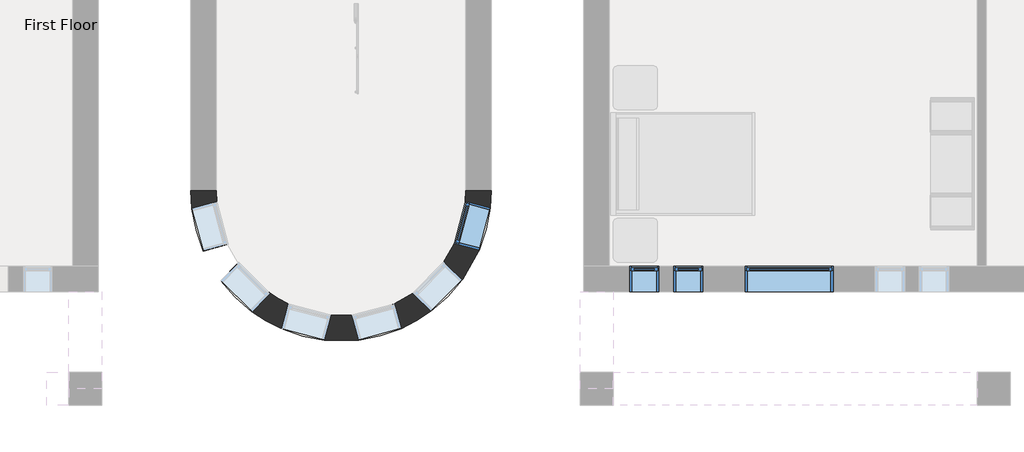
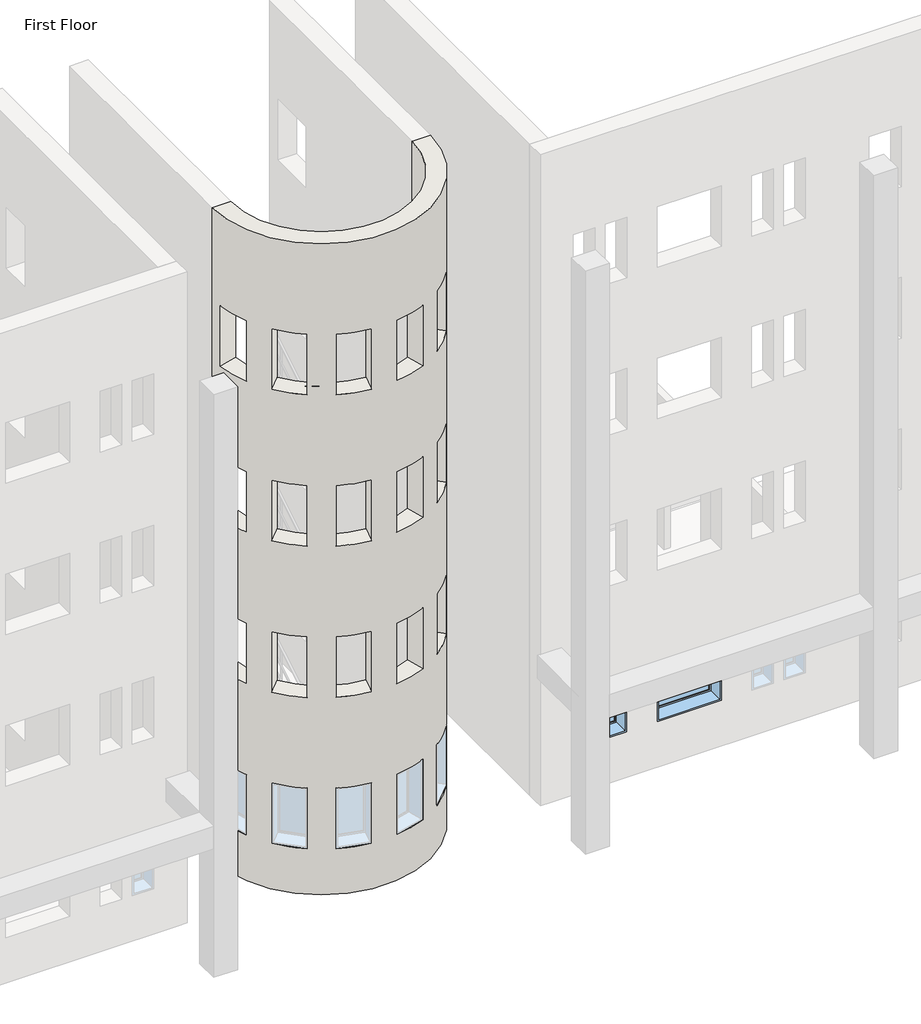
# One storey, part 2 of 24: 4 windows, 1 wall.
"""IFC4 building model written with IfcOpenShell, lengths in millimetres."""

from ifc_helpers import new_model, si_unit, frame, origin, place, context, project, spatial, polyline, circle_curve, transform, mapped, element, save
from ifc_brep_helpers import plane_surface, cylinder_surface, revolved_surface, advanced_brep
from components import window_d61ef850, window_ed80354a, window_d89bf842

model = new_model("IFC4")

# Units and contexts
model_context = context("Model", 3, world=origin())
ifc_project = project(units=[si_unit("LENGTHUNIT", "METRE", prefix="MILLI")], contexts=[model_context])

# Site, building, storey
site = spatial("IfcSite", under=ifc_project)
building = spatial("IfcBuilding", under=site)
storey = spatial("IfcBuildingStorey", under=building, Name="First Floor", Elevation=0.0)

# Wall
placement = place(None, origin())
element("IfcWall", 1, ObjectType="Exterior - Brick on Mtl. Stud", at=placement, inside=storey, context=model_context, shape_type="AdvancedBrep", body=[
    advanced_brep(
    [(-13206.3839563, -32835.3683133, 13106.4), (-16663.9589563, -32835.3683133, 13106.4), (-17016.3839563, -32835.3683133, 13106.4), (-12853.9589563, -32835.3683133, 13106.4), (-16663.9589563, -32835.3683133, 0.0), (-13206.3839563, -32835.3683133, 0.0), (-12853.9589563, -32835.3683133, 0.0), (-17016.3839563, -32835.3683133, 0.0), (-16657.3282447, -32986.637003, 914.4), (-16497.7584349, -33574.9818303, 914.4), (-16497.7584349, -33574.9818303, 2133.6), (-16657.3282447, -32986.637003, 2133.6), (-16350.9686395, -33827.4492356, 2133.6), (-16350.9686395, -33827.4492356, 914.4), (-15918.6047169, -34257.1858973, 914.4), (-15918.6047169, -34257.1858973, 2133.6), (-15665.2473224, -34402.4341862, 2133.6), (-15665.2473224, -34402.4341862, 914.4), (-15075.9408509, -34558.4150909, 914.4), (-15075.9408509, -34558.4150909, 2133.6), (-14783.9027666, -34557.5251017, 2133.6), (-14783.9027666, -34557.5251017, 914.4), (-14195.5579393, -34397.9552919, 914.4), (-14195.5579393, -34397.9552919, 2133.6), (-13943.090534, -34251.1654965, 2133.6), (-13943.090534, -34251.1654965, 914.4), (-13513.3538723, -33818.8015739, 914.4), (-13513.3538723, -33818.8015739, 2133.6), (-13368.1055834, -33565.4441794, 2133.6), (-13368.1055834, -33565.4441794, 914.4), (-13212.1246787, -32976.1377079, 914.4), (-13212.1246787, -32976.1377079, 2133.6), (-16657.3282447, -32986.637003, 11277.6), (-16657.3282447, -32986.637003, 10058.4), (-16497.7584349, -33574.9818303, 10058.4), (-16497.7584349, -33574.9818303, 11277.6), (-16350.9686395, -33827.4492356, 11277.6), (-16350.9686395, -33827.4492356, 10058.4), (-15918.6047169, -34257.1858973, 10058.4), (-15918.6047169, -34257.1858973, 11277.6), (-15665.2473224, -34402.4341862, 11277.6), (-15665.2473224, -34402.4341862, 10058.4), (-15075.9408509, -34558.4150909, 10058.4), (-15075.9408509, -34558.4150909, 11277.6), (-14783.9027666, -34557.5251017, 11277.6), (-14783.9027666, -34557.5251017, 10058.4), (-14195.5579393, -34397.9552919, 10058.4), (-14195.5579393, -34397.9552919, 11277.6), (-13943.090534, -34251.1654965, 11277.6), (-13943.090534, -34251.1654965, 10058.4), (-13513.3538723, -33818.8015739, 10058.4), (-13513.3538723, -33818.8015739, 11277.6), (-13368.1055834, -33565.4441794, 11277.6), (-13368.1055834, -33565.4441794, 10058.4), (-13212.1246787, -32976.1377079, 10058.4), (-13212.1246787, -32976.1377079, 11277.6), (-16657.3282447, -32986.637003, 5181.6), (-16657.3282447, -32986.637003, 3962.4), (-16497.7584349, -33574.9818303, 3962.4), (-16497.7584349, -33574.9818303, 5181.6), (-16350.9686395, -33827.4492356, 5181.6), (-16350.9686395, -33827.4492356, 3962.4), (-15918.6047169, -34257.1858973, 3962.4), (-15918.6047169, -34257.1858973, 5181.6), (-15665.2473224, -34402.4341862, 5181.6), (-15665.2473224, -34402.4341862, 3962.4), (-15075.9408509, -34558.4150909, 3962.4), (-15075.9408509, -34558.4150909, 5181.6), (-14783.9027666, -34557.5251017, 5181.6), (-14783.9027666, -34557.5251017, 3962.4), (-14195.5579393, -34397.9552919, 3962.4), (-14195.5579393, -34397.9552919, 5181.6), (-13943.090534, -34251.1654965, 5181.6), (-13943.090534, -34251.1654965, 3962.4), (-13513.3538723, -33818.8015739, 3962.4), (-13513.3538723, -33818.8015739, 5181.6), (-13368.1055834, -33565.4441794, 5181.6), (-13368.1055834, -33565.4441794, 3962.4), (-13212.1246787, -32976.1377079, 3962.4), (-13212.1246787, -32976.1377079, 5181.6), (-16657.3282447, -32986.637003, 8229.6), (-16657.3282447, -32986.637003, 7010.4), (-16497.7584349, -33574.9818303, 7010.4), (-16497.7584349, -33574.9818303, 8229.6), (-16350.9686395, -33827.4492356, 8229.6), (-16350.9686395, -33827.4492356, 7010.4), (-15918.6047169, -34257.1858973, 7010.4), (-15918.6047169, -34257.1858973, 8229.6), (-15665.2473224, -34402.4341862, 8229.6), (-15665.2473224, -34402.4341862, 7010.4), (-15075.9408509, -34558.4150909, 7010.4), (-15075.9408509, -34558.4150909, 8229.6), (-14783.9027666, -34557.5251017, 8229.6), (-14783.9027666, -34557.5251017, 7010.4), (-14195.5579393, -34397.9552919, 7010.4), (-14195.5579393, -34397.9552919, 8229.6), (-13943.090534, -34251.1654965, 8229.6), (-13943.090534, -34251.1654965, 7010.4), (-13513.3538723, -33818.8015739, 7010.4), (-13513.3538723, -33818.8015739, 8229.6), (-13368.1055834, -33565.4441794, 8229.6), (-13368.1055834, -33565.4441794, 7010.4), (-13212.1246787, -32976.1377079, 7010.4), (-13212.1246787, -32976.1377079, 8229.6), (-16842.3745716, -33668.4479897, 914.4), (-17001.9443814, -33080.1031624, 914.4), (-17001.9443814, -33080.1031624, 2133.6), (-16842.3745716, -33668.4479897, 2133.6), (-16602.6818887, -34080.7013723, 914.4), (-16602.6818887, -34080.7013723, 2133.6), (-16170.3179661, -34510.4380341, 2133.6), (-16170.3179661, -34510.4380341, 914.4), (-15756.6113224, -34747.6135948, 2133.6), (-15167.3048508, -34903.5944995, 2133.6), (-15167.3048508, -34903.5944995, 914.4), (-15756.6113224, -34747.6135948, 914.4), (-14690.4366072, -34902.1412384, 2133.6), (-14102.0917799, -34742.5714286, 2133.6), (-14102.0917799, -34742.5714286, 914.4), (-14690.4366072, -34902.1412384, 914.4), (-13689.8383973, -34502.8787457, 2133.6), (-13260.1017356, -34070.5148231, 2133.6), (-13260.1017356, -34070.5148231, 914.4), (-13689.8383973, -34502.8787457, 914.4), (-13022.9261748, -33656.8081794, 2133.6), (-12866.9452701, -33067.5017078, 2133.6), (-12866.9452701, -33067.5017078, 914.4), (-13022.9261748, -33656.8081794, 914.4), (-17001.9443814, -33080.1031624, 11277.6), (-16842.3745716, -33668.4479897, 11277.6), (-16842.3745716, -33668.4479897, 10058.4), (-17001.9443814, -33080.1031624, 10058.4), (-16602.6818887, -34080.7013723, 11277.6), (-16170.3179661, -34510.4380341, 11277.6), (-16170.3179661, -34510.4380341, 10058.4), (-16602.6818887, -34080.7013723, 10058.4), (-15756.6113224, -34747.6135948, 11277.6), (-15167.3048508, -34903.5944995, 11277.6), (-15167.3048508, -34903.5944995, 10058.4), (-15756.6113224, -34747.6135948, 10058.4), (-14690.4366072, -34902.1412384, 11277.6), (-14102.0917799, -34742.5714286, 11277.6), (-14102.0917799, -34742.5714286, 10058.4), (-14690.4366072, -34902.1412384, 10058.4), (-13689.8383973, -34502.8787457, 11277.6), (-13260.1017356, -34070.5148231, 11277.6), (-13260.1017356, -34070.5148231, 10058.4), (-13689.8383973, -34502.8787457, 10058.4), (-13022.9261748, -33656.8081794, 11277.6), (-12866.9452701, -33067.5017078, 11277.6), (-12866.9452701, -33067.5017078, 10058.4), (-13022.9261748, -33656.8081794, 10058.4), (-17001.9443814, -33080.1031624, 5181.6), (-16842.3745716, -33668.4479897, 5181.6), (-16842.3745716, -33668.4479897, 3962.4), (-17001.9443814, -33080.1031624, 3962.4), (-16602.6818887, -34080.7013723, 5181.6), (-16170.3179661, -34510.4380341, 5181.6), (-16170.3179661, -34510.4380341, 3962.4), (-16602.6818887, -34080.7013723, 3962.4), (-15756.6113224, -34747.6135948, 5181.6), (-15167.3048508, -34903.5944995, 5181.6), (-15167.3048508, -34903.5944995, 3962.4), (-15756.6113224, -34747.6135948, 3962.4), (-14690.4366072, -34902.1412384, 5181.6), (-14102.0917799, -34742.5714286, 5181.6), (-14102.0917799, -34742.5714286, 3962.4), (-14690.4366072, -34902.1412384, 3962.4), (-13689.8383973, -34502.8787457, 5181.6), (-13260.1017356, -34070.5148231, 5181.6), (-13260.1017356, -34070.5148231, 3962.4), (-13689.8383973, -34502.8787457, 3962.4), (-13022.9261748, -33656.8081794, 5181.6), (-12866.9452701, -33067.5017078, 5181.6), (-12866.9452701, -33067.5017078, 3962.4), (-13022.9261748, -33656.8081794, 3962.4), (-17001.9443814, -33080.1031624, 8229.6), (-16842.3745716, -33668.4479897, 8229.6), (-16842.3745716, -33668.4479897, 7010.4), (-17001.9443814, -33080.1031624, 7010.4), (-16602.6818887, -34080.7013723, 8229.6), (-16170.3179661, -34510.4380341, 8229.6), (-16170.3179661, -34510.4380341, 7010.4), (-16602.6818887, -34080.7013723, 7010.4), (-15756.6113224, -34747.6135948, 8229.6), (-15167.3048508, -34903.5944995, 8229.6), (-15167.3048508, -34903.5944995, 7010.4), (-15756.6113224, -34747.6135948, 7010.4), (-14690.4366072, -34902.1412384, 8229.6), (-14102.0917799, -34742.5714286, 8229.6), (-14102.0917799, -34742.5714286, 7010.4), (-14690.4366072, -34902.1412384, 7010.4), (-13689.8383973, -34502.8787457, 8229.6), (-13260.1017356, -34070.5148231, 8229.6), (-13260.1017356, -34070.5148231, 7010.4), (-13689.8383973, -34502.8787457, 7010.4), (-13022.9261748, -33656.8081794, 8229.6), (-12866.9452701, -33067.5017078, 8229.6), (-12866.9452701, -33067.5017078, 7010.4), (-13022.9261748, -33656.8081794, 7010.4)],
    [
        (0, 1, circle_curve(frame((-14935.1714563, -32835.3683133, 13106.4), z_axis=(0.0, 0.0, -1.0), x_axis=(1.0, 0.0, 0.0)), 1728.7875)),
        (1, 2),
        (2, 3, circle_curve(frame((-14935.1714563, -32835.3683133, 13106.4), z_axis=(0.0, 0.0, 1.0), x_axis=(1.0, 0.0, 0.0)), 2081.2125)),
        (3, 0),
        (4, 5, circle_curve(frame((-14935.1714563, -32835.3683133, 0.0), z_axis=(0.0, 0.0, 1.0), x_axis=(1.0, 0.0, 0.0)), 1728.7875)),
        (5, 6),
        (6, 7, circle_curve(frame((-14935.1714563, -32835.3683133, 0.0), z_axis=(0.0, 0.0, -1.0), x_axis=(1.0, 0.0, 0.0)), 2081.2125)),
        (7, 4),
        (0, 5),
        (4, 1),
        (8, 9, circle_curve(frame((-14935.1714563, -32835.3683133, 914.4), z_axis=(0.0, 0.0, 1.0), x_axis=(1.0, 0.0, 0.0)), 1728.7875)),
        (9, 10),
        (10, 11, circle_curve(frame((-14935.1714563, -32835.3683133, 2133.6), z_axis=(0.0, 0.0, -1.0), x_axis=(1.0, 0.0, 0.0)), 1728.7875)),
        (11, 8),
        (12, 13),
        (13, 14, circle_curve(frame((-14935.1714563, -32835.3683133, 914.4), z_axis=(0.0, 0.0, 1.0), x_axis=(1.0, 0.0, 0.0)), 1728.7875)),
        (14, 15),
        (15, 12, circle_curve(frame((-14935.1714563, -32835.3683133, 2133.6), z_axis=(0.0, 0.0, -1.0), x_axis=(1.0, 0.0, 0.0)), 1728.7875)),
        (16, 17),
        (17, 18, circle_curve(frame((-14935.1714563, -32835.3683133, 914.4), z_axis=(0.0, 0.0, 1.0), x_axis=(1.0, 0.0, 0.0)), 1728.7875)),
        (18, 19),
        (19, 16, circle_curve(frame((-14935.1714563, -32835.3683133, 2133.6), z_axis=(0.0, 0.0, -1.0), x_axis=(1.0, 0.0, 0.0)), 1728.7875)),
        (20, 21),
        (21, 22, circle_curve(frame((-14935.1714563, -32835.3683133, 914.4), z_axis=(0.0, 0.0, 1.0), x_axis=(1.0, 0.0, 0.0)), 1728.7875)),
        (22, 23),
        (23, 20, circle_curve(frame((-14935.1714563, -32835.3683133, 2133.6), z_axis=(0.0, 0.0, -1.0), x_axis=(1.0, 0.0, 0.0)), 1728.7875)),
        (24, 25),
        (25, 26, circle_curve(frame((-14935.1714563, -32835.3683133, 914.4), z_axis=(0.0, 0.0, 1.0), x_axis=(1.0, 0.0, 0.0)), 1728.7875)),
        (26, 27),
        (27, 24, circle_curve(frame((-14935.1714563, -32835.3683133, 2133.6), z_axis=(0.0, 0.0, -1.0), x_axis=(1.0, 0.0, 0.0)), 1728.7875)),
        (28, 29),
        (29, 30, circle_curve(frame((-14935.1714563, -32835.3683133, 914.4), z_axis=(0.0, 0.0, 1.0), x_axis=(1.0, 0.0, 0.0)), 1728.7875)),
        (30, 31),
        (31, 28, circle_curve(frame((-14935.1714563, -32835.3683133, 2133.6), z_axis=(0.0, 0.0, -1.0), x_axis=(1.0, 0.0, 0.0)), 1728.7875)),
        (32, 33),
        (33, 34, circle_curve(frame((-14935.1714563, -32835.3683133, 10058.4), z_axis=(0.0, 0.0, 1.0), x_axis=(1.0, 0.0, 0.0)), 1728.7875)),
        (34, 35),
        (35, 32, circle_curve(frame((-14935.1714563, -32835.3683133, 11277.6), z_axis=(0.0, 0.0, -1.0), x_axis=(1.0, 0.0, 0.0)), 1728.7875)),
        (36, 37),
        (37, 38, circle_curve(frame((-14935.1714563, -32835.3683133, 10058.4), z_axis=(0.0, 0.0, 1.0), x_axis=(1.0, 0.0, 0.0)), 1728.7875)),
        (38, 39),
        (39, 36, circle_curve(frame((-14935.1714563, -32835.3683133, 11277.6), z_axis=(0.0, 0.0, -1.0), x_axis=(1.0, 0.0, 0.0)), 1728.7875)),
        (40, 41),
        (41, 42, circle_curve(frame((-14935.1714563, -32835.3683133, 10058.4), z_axis=(0.0, 0.0, 1.0), x_axis=(1.0, 0.0, 0.0)), 1728.7875)),
        (42, 43),
        (43, 40, circle_curve(frame((-14935.1714563, -32835.3683133, 11277.6), z_axis=(0.0, 0.0, -1.0), x_axis=(1.0, 0.0, 0.0)), 1728.7875)),
        (44, 45),
        (45, 46, circle_curve(frame((-14935.1714563, -32835.3683133, 10058.4), z_axis=(0.0, 0.0, 1.0), x_axis=(1.0, 0.0, 0.0)), 1728.7875)),
        (46, 47),
        (47, 44, circle_curve(frame((-14935.1714563, -32835.3683133, 11277.6), z_axis=(0.0, 0.0, -1.0), x_axis=(1.0, 0.0, 0.0)), 1728.7875)),
        (48, 49),
        (49, 50, circle_curve(frame((-14935.1714563, -32835.3683133, 10058.4), z_axis=(0.0, 0.0, 1.0), x_axis=(1.0, 0.0, 0.0)), 1728.7875)),
        (50, 51),
        (51, 48, circle_curve(frame((-14935.1714563, -32835.3683133, 11277.6), z_axis=(0.0, 0.0, -1.0), x_axis=(1.0, 0.0, 0.0)), 1728.7875)),
        (52, 53),
        (53, 54, circle_curve(frame((-14935.1714563, -32835.3683133, 10058.4), z_axis=(0.0, 0.0, 1.0), x_axis=(1.0, 0.0, 0.0)), 1728.7875)),
        (54, 55),
        (55, 52, circle_curve(frame((-14935.1714563, -32835.3683133, 11277.6), z_axis=(0.0, 0.0, -1.0), x_axis=(1.0, 0.0, 0.0)), 1728.7875)),
        (56, 57),
        (57, 58, circle_curve(frame((-14935.1714563, -32835.3683133, 3962.4), z_axis=(0.0, 0.0, 1.0), x_axis=(1.0, 0.0, 0.0)), 1728.7875)),
        (58, 59),
        (59, 56, circle_curve(frame((-14935.1714563, -32835.3683133, 5181.6), z_axis=(0.0, 0.0, -1.0), x_axis=(1.0, 0.0, 0.0)), 1728.7875)),
        (60, 61),
        (61, 62, circle_curve(frame((-14935.1714563, -32835.3683133, 3962.4), z_axis=(0.0, 0.0, 1.0), x_axis=(1.0, 0.0, 0.0)), 1728.7875)),
        (62, 63),
        (63, 60, circle_curve(frame((-14935.1714563, -32835.3683133, 5181.6), z_axis=(0.0, 0.0, -1.0), x_axis=(1.0, 0.0, 0.0)), 1728.7875)),
        (64, 65),
        (65, 66, circle_curve(frame((-14935.1714563, -32835.3683133, 3962.4), z_axis=(0.0, 0.0, 1.0), x_axis=(1.0, 0.0, 0.0)), 1728.7875)),
        (66, 67),
        (67, 64, circle_curve(frame((-14935.1714563, -32835.3683133, 5181.6), z_axis=(0.0, 0.0, -1.0), x_axis=(1.0, 0.0, 0.0)), 1728.7875)),
        (68, 69),
        (69, 70, circle_curve(frame((-14935.1714563, -32835.3683133, 3962.4), z_axis=(0.0, 0.0, 1.0), x_axis=(1.0, 0.0, 0.0)), 1728.7875)),
        (70, 71),
        (71, 68, circle_curve(frame((-14935.1714563, -32835.3683133, 5181.6), z_axis=(0.0, 0.0, -1.0), x_axis=(1.0, 0.0, 0.0)), 1728.7875)),
        (72, 73),
        (73, 74, circle_curve(frame((-14935.1714563, -32835.3683133, 3962.4), z_axis=(0.0, 0.0, 1.0), x_axis=(1.0, 0.0, 0.0)), 1728.7875)),
        (74, 75),
        (75, 72, circle_curve(frame((-14935.1714563, -32835.3683133, 5181.6), z_axis=(0.0, 0.0, -1.0), x_axis=(1.0, 0.0, 0.0)), 1728.7875)),
        (76, 77),
        (77, 78, circle_curve(frame((-14935.1714563, -32835.3683133, 3962.4), z_axis=(0.0, 0.0, 1.0), x_axis=(1.0, 0.0, 0.0)), 1728.7875)),
        (78, 79),
        (79, 76, circle_curve(frame((-14935.1714563, -32835.3683133, 5181.6), z_axis=(0.0, 0.0, -1.0), x_axis=(1.0, 0.0, 0.0)), 1728.7875)),
        (80, 81),
        (81, 82, circle_curve(frame((-14935.1714563, -32835.3683133, 7010.4), z_axis=(0.0, 0.0, 1.0), x_axis=(1.0, 0.0, 0.0)), 1728.7875)),
        (82, 83),
        (83, 80, circle_curve(frame((-14935.1714563, -32835.3683133, 8229.6), z_axis=(0.0, 0.0, -1.0), x_axis=(1.0, 0.0, 0.0)), 1728.7875)),
        (84, 85),
        (85, 86, circle_curve(frame((-14935.1714563, -32835.3683133, 7010.4), z_axis=(0.0, 0.0, 1.0), x_axis=(1.0, 0.0, 0.0)), 1728.7875)),
        (86, 87),
        (87, 84, circle_curve(frame((-14935.1714563, -32835.3683133, 8229.6), z_axis=(0.0, 0.0, -1.0), x_axis=(1.0, 0.0, 0.0)), 1728.7875)),
        (88, 89),
        (89, 90, circle_curve(frame((-14935.1714563, -32835.3683133, 7010.4), z_axis=(0.0, 0.0, 1.0), x_axis=(1.0, 0.0, 0.0)), 1728.7875)),
        (90, 91),
        (91, 88, circle_curve(frame((-14935.1714563, -32835.3683133, 8229.6), z_axis=(0.0, 0.0, -1.0), x_axis=(1.0, 0.0, 0.0)), 1728.7875)),
        (92, 93),
        (93, 94, circle_curve(frame((-14935.1714563, -32835.3683133, 7010.4), z_axis=(0.0, 0.0, 1.0), x_axis=(1.0, 0.0, 0.0)), 1728.7875)),
        (94, 95),
        (95, 92, circle_curve(frame((-14935.1714563, -32835.3683133, 8229.6), z_axis=(0.0, 0.0, -1.0), x_axis=(1.0, 0.0, 0.0)), 1728.7875)),
        (96, 97),
        (97, 98, circle_curve(frame((-14935.1714563, -32835.3683133, 7010.4), z_axis=(0.0, 0.0, 1.0), x_axis=(1.0, 0.0, 0.0)), 1728.7875)),
        (98, 99),
        (99, 96, circle_curve(frame((-14935.1714563, -32835.3683133, 8229.6), z_axis=(0.0, 0.0, -1.0), x_axis=(1.0, 0.0, 0.0)), 1728.7875)),
        (100, 101),
        (101, 102, circle_curve(frame((-14935.1714563, -32835.3683133, 7010.4), z_axis=(0.0, 0.0, 1.0), x_axis=(1.0, 0.0, 0.0)), 1728.7875)),
        (102, 103),
        (103, 100, circle_curve(frame((-14935.1714563, -32835.3683133, 8229.6), z_axis=(0.0, 0.0, -1.0), x_axis=(1.0, 0.0, 0.0)), 1728.7875)),
        (7, 2),
        (6, 3),
        (104, 105, circle_curve(frame((-14935.1714563, -32835.3683133, 914.4), z_axis=(0.0, 0.0, -1.0), x_axis=(1.0, 0.0, 0.0)), 2081.2125)),
        (105, 106),
        (106, 107, circle_curve(frame((-14935.1714563, -32835.3683133, 2133.6), z_axis=(0.0, 0.0, 1.0), x_axis=(1.0, 0.0, 0.0)), 2081.2125)),
        (107, 104),
        (108, 109),
        (109, 110, circle_curve(frame((-14935.1714563, -32835.3683133, 2133.6), z_axis=(0.0, 0.0, 1.0), x_axis=(1.0, 0.0, 0.0)), 2081.2125)),
        (110, 111),
        (111, 108, circle_curve(frame((-14935.1714563, -32835.3683133, 914.4), z_axis=(0.0, 0.0, -1.0), x_axis=(1.0, 0.0, 0.0)), 2081.2125)),
        (112, 113, circle_curve(frame((-14935.1714563, -32835.3683133, 2133.6), z_axis=(0.0, 0.0, 1.0), x_axis=(1.0, 0.0, 0.0)), 2081.2125)),
        (113, 114),
        (114, 115, circle_curve(frame((-14935.1714563, -32835.3683133, 914.4), z_axis=(0.0, 0.0, -1.0), x_axis=(1.0, 0.0, 0.0)), 2081.2125)),
        (115, 112),
        (116, 117, circle_curve(frame((-14935.1714563, -32835.3683133, 2133.6), z_axis=(0.0, 0.0, 1.0), x_axis=(1.0, 0.0, 0.0)), 2081.2125)),
        (117, 118),
        (118, 119, circle_curve(frame((-14935.1714563, -32835.3683133, 914.4), z_axis=(0.0, 0.0, -1.0), x_axis=(1.0, 0.0, 0.0)), 2081.2125)),
        (119, 116),
        (120, 121, circle_curve(frame((-14935.1714563, -32835.3683133, 2133.6), z_axis=(0.0, 0.0, 1.0), x_axis=(1.0, 0.0, 0.0)), 2081.2125)),
        (121, 122),
        (122, 123, circle_curve(frame((-14935.1714563, -32835.3683133, 914.4), z_axis=(0.0, 0.0, -1.0), x_axis=(1.0, 0.0, 0.0)), 2081.2125)),
        (123, 120),
        (124, 125, circle_curve(frame((-14935.1714563, -32835.3683133, 2133.6), z_axis=(0.0, 0.0, 1.0), x_axis=(1.0, 0.0, 0.0)), 2081.2125)),
        (125, 126),
        (126, 127, circle_curve(frame((-14935.1714563, -32835.3683133, 914.4), z_axis=(0.0, 0.0, -1.0), x_axis=(1.0, 0.0, 0.0)), 2081.2125)),
        (127, 124),
        (128, 129, circle_curve(frame((-14935.1714563, -32835.3683133, 11277.6), z_axis=(0.0, 0.0, 1.0), x_axis=(1.0, 0.0, 0.0)), 2081.2125)),
        (129, 130),
        (130, 131, circle_curve(frame((-14935.1714563, -32835.3683133, 10058.4), z_axis=(0.0, 0.0, -1.0), x_axis=(1.0, 0.0, 0.0)), 2081.2125)),
        (131, 128),
        (132, 133, circle_curve(frame((-14935.1714563, -32835.3683133, 11277.6), z_axis=(0.0, 0.0, 1.0), x_axis=(1.0, 0.0, 0.0)), 2081.2125)),
        (133, 134),
        (134, 135, circle_curve(frame((-14935.1714563, -32835.3683133, 10058.4), z_axis=(0.0, 0.0, -1.0), x_axis=(1.0, 0.0, 0.0)), 2081.2125)),
        (135, 132),
        (136, 137, circle_curve(frame((-14935.1714563, -32835.3683133, 11277.6), z_axis=(0.0, 0.0, 1.0), x_axis=(1.0, 0.0, 0.0)), 2081.2125)),
        (137, 138),
        (138, 139, circle_curve(frame((-14935.1714563, -32835.3683133, 10058.4), z_axis=(0.0, 0.0, -1.0), x_axis=(1.0, 0.0, 0.0)), 2081.2125)),
        (139, 136),
        (140, 141, circle_curve(frame((-14935.1714563, -32835.3683133, 11277.6), z_axis=(0.0, 0.0, 1.0), x_axis=(1.0, 0.0, 0.0)), 2081.2125)),
        (141, 142),
        (142, 143, circle_curve(frame((-14935.1714563, -32835.3683133, 10058.4), z_axis=(0.0, 0.0, -1.0), x_axis=(1.0, 0.0, 0.0)), 2081.2125)),
        (143, 140),
        (144, 145, circle_curve(frame((-14935.1714563, -32835.3683133, 11277.6), z_axis=(0.0, 0.0, 1.0), x_axis=(1.0, 0.0, 0.0)), 2081.2125)),
        (145, 146),
        (146, 147, circle_curve(frame((-14935.1714563, -32835.3683133, 10058.4), z_axis=(0.0, 0.0, -1.0), x_axis=(1.0, 0.0, 0.0)), 2081.2125)),
        (147, 144),
        (148, 149, circle_curve(frame((-14935.1714563, -32835.3683133, 11277.6), z_axis=(0.0, 0.0, 1.0), x_axis=(1.0, 0.0, 0.0)), 2081.2125)),
        (149, 150),
        (150, 151, circle_curve(frame((-14935.1714563, -32835.3683133, 10058.4), z_axis=(0.0, 0.0, -1.0), x_axis=(1.0, 0.0, 0.0)), 2081.2125)),
        (151, 148),
        (152, 153, circle_curve(frame((-14935.1714563, -32835.3683133, 5181.6), z_axis=(0.0, 0.0, 1.0), x_axis=(1.0, 0.0, 0.0)), 2081.2125)),
        (153, 154),
        (154, 155, circle_curve(frame((-14935.1714563, -32835.3683133, 3962.4), z_axis=(0.0, 0.0, -1.0), x_axis=(1.0, 0.0, 0.0)), 2081.2125)),
        (155, 152),
        (156, 157, circle_curve(frame((-14935.1714563, -32835.3683133, 5181.6), z_axis=(0.0, 0.0, 1.0), x_axis=(1.0, 0.0, 0.0)), 2081.2125)),
        (157, 158),
        (158, 159, circle_curve(frame((-14935.1714563, -32835.3683133, 3962.4), z_axis=(0.0, 0.0, -1.0), x_axis=(1.0, 0.0, 0.0)), 2081.2125)),
        (159, 156),
        (160, 161, circle_curve(frame((-14935.1714563, -32835.3683133, 5181.6), z_axis=(0.0, 0.0, 1.0), x_axis=(1.0, 0.0, 0.0)), 2081.2125)),
        (161, 162),
        (162, 163, circle_curve(frame((-14935.1714563, -32835.3683133, 3962.4), z_axis=(0.0, 0.0, -1.0), x_axis=(1.0, 0.0, 0.0)), 2081.2125)),
        (163, 160),
        (164, 165, circle_curve(frame((-14935.1714563, -32835.3683133, 5181.6), z_axis=(0.0, 0.0, 1.0), x_axis=(1.0, 0.0, 0.0)), 2081.2125)),
        (165, 166),
        (166, 167, circle_curve(frame((-14935.1714563, -32835.3683133, 3962.4), z_axis=(0.0, 0.0, -1.0), x_axis=(1.0, 0.0, 0.0)), 2081.2125)),
        (167, 164),
        (168, 169, circle_curve(frame((-14935.1714563, -32835.3683133, 5181.6), z_axis=(0.0, 0.0, 1.0), x_axis=(1.0, 0.0, 0.0)), 2081.2125)),
        (169, 170),
        (170, 171, circle_curve(frame((-14935.1714563, -32835.3683133, 3962.4), z_axis=(0.0, 0.0, -1.0), x_axis=(1.0, 0.0, 0.0)), 2081.2125)),
        (171, 168),
        (172, 173, circle_curve(frame((-14935.1714563, -32835.3683133, 5181.6), z_axis=(0.0, 0.0, 1.0), x_axis=(1.0, 0.0, 0.0)), 2081.2125)),
        (173, 174),
        (174, 175, circle_curve(frame((-14935.1714563, -32835.3683133, 3962.4), z_axis=(0.0, 0.0, -1.0), x_axis=(1.0, 0.0, 0.0)), 2081.2125)),
        (175, 172),
        (176, 177, circle_curve(frame((-14935.1714563, -32835.3683133, 8229.6), z_axis=(0.0, 0.0, 1.0), x_axis=(1.0, 0.0, 0.0)), 2081.2125)),
        (177, 178),
        (178, 179, circle_curve(frame((-14935.1714563, -32835.3683133, 7010.4), z_axis=(0.0, 0.0, -1.0), x_axis=(1.0, 0.0, 0.0)), 2081.2125)),
        (179, 176),
        (180, 181, circle_curve(frame((-14935.1714563, -32835.3683133, 8229.6), z_axis=(0.0, 0.0, 1.0), x_axis=(1.0, 0.0, 0.0)), 2081.2125)),
        (181, 182),
        (182, 183, circle_curve(frame((-14935.1714563, -32835.3683133, 7010.4), z_axis=(0.0, 0.0, -1.0), x_axis=(1.0, 0.0, 0.0)), 2081.2125)),
        (183, 180),
        (184, 185, circle_curve(frame((-14935.1714563, -32835.3683133, 8229.6), z_axis=(0.0, 0.0, 1.0), x_axis=(1.0, 0.0, 0.0)), 2081.2125)),
        (185, 186),
        (186, 187, circle_curve(frame((-14935.1714563, -32835.3683133, 7010.4), z_axis=(0.0, 0.0, -1.0), x_axis=(1.0, 0.0, 0.0)), 2081.2125)),
        (187, 184),
        (188, 189, circle_curve(frame((-14935.1714563, -32835.3683133, 8229.6), z_axis=(0.0, 0.0, 1.0), x_axis=(1.0, 0.0, 0.0)), 2081.2125)),
        (189, 190),
        (190, 191, circle_curve(frame((-14935.1714563, -32835.3683133, 7010.4), z_axis=(0.0, 0.0, -1.0), x_axis=(1.0, 0.0, 0.0)), 2081.2125)),
        (191, 188),
        (192, 193, circle_curve(frame((-14935.1714563, -32835.3683133, 8229.6), z_axis=(0.0, 0.0, 1.0), x_axis=(1.0, 0.0, 0.0)), 2081.2125)),
        (193, 194),
        (194, 195, circle_curve(frame((-14935.1714563, -32835.3683133, 7010.4), z_axis=(0.0, 0.0, -1.0), x_axis=(1.0, 0.0, 0.0)), 2081.2125)),
        (195, 192),
        (196, 197, circle_curve(frame((-14935.1714563, -32835.3683133, 8229.6), z_axis=(0.0, 0.0, 1.0), x_axis=(1.0, 0.0, 0.0)), 2081.2125)),
        (197, 198),
        (198, 199, circle_curve(frame((-14935.1714563, -32835.3683133, 7010.4), z_axis=(0.0, 0.0, -1.0), x_axis=(1.0, 0.0, 0.0)), 2081.2125)),
        (199, 196),
        (105, 8),
        (11, 106),
        (104, 9),
        (107, 10),
        (12, 109),
        (108, 13),
        (111, 14),
        (110, 15),
        (16, 112),
        (115, 17),
        (114, 18),
        (113, 19),
        (20, 116),
        (119, 21),
        (118, 22),
        (117, 23),
        (24, 120),
        (123, 25),
        (122, 26),
        (121, 27),
        (28, 124),
        (127, 29),
        (126, 30),
        (125, 31),
        (32, 128),
        (131, 33),
        (130, 34),
        (129, 35),
        (36, 132),
        (135, 37),
        (134, 38),
        (133, 39),
        (40, 136),
        (139, 41),
        (138, 42),
        (137, 43),
        (44, 140),
        (143, 45),
        (142, 46),
        (141, 47),
        (48, 144),
        (147, 49),
        (146, 50),
        (145, 51),
        (52, 148),
        (151, 53),
        (150, 54),
        (149, 55),
        (56, 152),
        (155, 57),
        (154, 58),
        (153, 59),
        (60, 156),
        (159, 61),
        (158, 62),
        (157, 63),
        (64, 160),
        (163, 65),
        (162, 66),
        (161, 67),
        (68, 164),
        (167, 69),
        (166, 70),
        (165, 71),
        (72, 168),
        (171, 73),
        (170, 74),
        (169, 75),
        (76, 172),
        (175, 77),
        (174, 78),
        (173, 79),
        (80, 176),
        (179, 81),
        (178, 82),
        (177, 83),
        (84, 180),
        (183, 85),
        (182, 86),
        (181, 87),
        (88, 184),
        (187, 89),
        (186, 90),
        (185, 91),
        (92, 188),
        (191, 93),
        (190, 94),
        (189, 95),
        (96, 192),
        (195, 97),
        (194, 98),
        (193, 99),
        (100, 196),
        (199, 101),
        (198, 102),
        (197, 103),
    ],
    [
        plane_surface(frame((-13206.3839563, -32835.3683133, 13106.4), z_axis=(0.0, 0.0, 1.0), x_axis=(0.0, -1.0, 0.0))),
        plane_surface(frame((-13206.3839563, -32835.3683133, 0.0), z_axis=(0.0, 0.0, -1.0), x_axis=(0.0, 1.0, 0.0))),
        revolved_surface(polyline([(-13206.3839563, -32835.3683133, 0.0), (-13206.3839563, -32835.3683133, 13106.4)]), (-14935.1714563, -32835.3683133, 0.0), (0.0, 0.0, -1.0)),
        plane_surface(frame((-16663.9589563, -32835.3683133, 13106.4), z_axis=(0.0, 1.0, 0.0), x_axis=(0.0, 0.0, -1.0))),
        cylinder_surface(frame((-14935.1714563, -32835.3683133, 0.0), z_axis=(0.0, 0.0, 1.0), x_axis=(1.0, 0.0, 0.0)), 2081.2125),
        plane_surface(frame((-12853.9589563, -32835.3683133, 13106.4), z_axis=(0.0, 1.0, 0.0), x_axis=(0.0, 0.0, -1.0))),
        plane_surface(frame((-18468.3271662, -33477.8128238, 2133.6), z_axis=(0.26176149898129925, -0.9651325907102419, 0.0), x_axis=(0.9651325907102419, 0.26176149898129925, 0.0))),
        plane_surface(frame((-18468.3271662, -33477.8128238, 914.4), z_axis=(0.0, 0.0, 1.0), x_axis=(0.9651325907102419, 0.26176149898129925, 0.0))),
        plane_surface(frame((-18308.7573564, -34066.1576511, 914.4), z_axis=(-0.26176149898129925, 0.9651325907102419, 0.0), x_axis=(0.9651325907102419, 0.26176149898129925, 0.0))),
        plane_surface(frame((-18308.7573564, -34066.1576511, 2133.6), z_axis=(0.0, 0.0, -1.0), x_axis=(0.9651325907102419, 0.26176149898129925, 0.0))),
        plane_surface(frame((-17673.7518014, -35158.3194348, 2133.6), z_axis=(0.7092584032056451, -0.7049485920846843, 0.0), x_axis=(0.7049485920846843, 0.7092584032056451, 0.0))),
        plane_surface(frame((-17673.7518014, -35158.3194348, 914.4), z_axis=(0.0, 0.0, 1.0), x_axis=(0.7049485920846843, 0.7092584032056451, 0.0))),
        plane_surface(frame((-17241.3878788, -35588.0560966, 914.4), z_axis=(-0.7092584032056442, 0.7049485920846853, 0.0), x_axis=(0.7049485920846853, 0.7092584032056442, 0.0))),
        plane_surface(frame((-17241.3878788, -35588.0560966, 2133.6), z_axis=(0.0, 0.0, -1.0), x_axis=(0.7049485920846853, 0.7092584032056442, 0.0))),
        plane_surface(frame((-15665.2473224, -34402.4341862, 2133.6), z_axis=(0.9667100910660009, -0.25587418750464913, 0.0), x_axis=(-0.25587418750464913, -0.9667100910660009, 0.0))),
        plane_surface(frame((-15665.2473224, -34402.4341862, 914.4), z_axis=(0.0, 0.0, 1.0), x_axis=(-0.25587418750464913, -0.9667100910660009, 0.0))),
        plane_surface(frame((-15075.9408509, -34558.4150909, 914.4), z_axis=(-0.9667100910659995, 0.25587418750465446, 0.0), x_axis=(-0.25587418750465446, -0.9667100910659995, 0.0))),
        plane_surface(frame((-15075.9408509, -34558.4150909, 2133.6), z_axis=(0.0, 0.0, -1.0), x_axis=(-0.25587418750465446, -0.9667100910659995, 0.0))),
        plane_surface(frame((-14783.9027666, -34557.5251017, 2133.6), z_axis=(0.9651325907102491, 0.2617614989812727, 0.0), x_axis=(0.2617614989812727, -0.9651325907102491, 0.0))),
        plane_surface(frame((-14783.9027666, -34557.5251017, 914.4), z_axis=(0.0, 0.0, 1.0000000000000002), x_axis=(0.2617614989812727, -0.9651325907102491, 0.0))),
        plane_surface(frame((-14195.5579393, -34397.9552919, 914.4), z_axis=(-0.9651325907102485, -0.26176149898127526, 0.0), x_axis=(0.26176149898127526, -0.9651325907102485, 0.0))),
        plane_surface(frame((-14195.5579393, -34397.9552919, 2133.6), z_axis=(0.0, 0.0, -1.0000000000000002), x_axis=(0.26176149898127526, -0.9651325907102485, 0.0))),
        plane_surface(frame((-13943.090534, -34251.1654965, 2133.6), z_axis=(0.7049485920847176, 0.709258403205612, 0.0), x_axis=(0.709258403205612, -0.7049485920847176, 0.0))),
        plane_surface(frame((-13943.090534, -34251.1654965, 914.4), z_axis=(0.0, 0.0, 1.0), x_axis=(0.709258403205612, -0.7049485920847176, 0.0))),
        plane_surface(frame((-13513.3538723, -33818.8015739, 914.4), z_axis=(-0.7049485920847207, -0.7092584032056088, 0.0), x_axis=(0.7092584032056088, -0.7049485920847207, 0.0))),
        plane_surface(frame((-13513.3538723, -33818.8015739, 2133.6), z_axis=(0.0, 0.0, -1.0), x_axis=(0.7092584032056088, -0.7049485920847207, 0.0))),
        plane_surface(frame((-13368.1055834, -33565.4441794, 2133.6), z_axis=(0.2558741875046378, 0.9667100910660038, 0.0), x_axis=(0.9667100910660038, -0.2558741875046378, 0.0))),
        plane_surface(frame((-13368.1055834, -33565.4441794, 914.4), z_axis=(0.0, 0.0, 1.0), x_axis=(0.9667100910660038, -0.2558741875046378, 0.0))),
        plane_surface(frame((-13212.1246787, -32976.1377079, 914.4), z_axis=(-0.2558741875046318, -0.9667100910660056, 0.0), x_axis=(0.9667100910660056, -0.2558741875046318, 0.0))),
        plane_surface(frame((-13212.1246787, -32976.1377079, 2133.6), z_axis=(0.0, 0.0, -1.0000000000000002), x_axis=(0.9667100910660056, -0.2558741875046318, 0.0))),
        plane_surface(frame((-16657.3282447, -32986.637003, 11277.6), z_axis=(0.26176149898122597, -0.9651325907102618, 0.0), x_axis=(-0.9651325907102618, -0.26176149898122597, 0.0))),
        plane_surface(frame((-16657.3282447, -32986.637003, 10058.4), z_axis=(0.0, 0.0, 1.0), x_axis=(-0.9651325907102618, -0.26176149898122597, 0.0))),
        plane_surface(frame((-16497.7584349, -33574.9818303, 10058.4), z_axis=(-0.2617614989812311, 0.9651325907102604, 0.0), x_axis=(-0.9651325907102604, -0.2617614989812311, 0.0))),
        plane_surface(frame((-16497.7584349, -33574.9818303, 11277.6), z_axis=(0.0, 0.0, -1.0), x_axis=(-0.9651325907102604, -0.2617614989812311, 0.0))),
        plane_surface(frame((-16350.9686395, -33827.4492356, 11277.6), z_axis=(0.7092584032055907, -0.7049485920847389, 0.0), x_axis=(-0.7049485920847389, -0.7092584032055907, 0.0))),
        plane_surface(frame((-16350.9686395, -33827.4492356, 10058.4), z_axis=(0.0, 0.0, 1.0), x_axis=(-0.7049485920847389, -0.7092584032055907, 0.0))),
        plane_surface(frame((-15918.6047169, -34257.1858973, 10058.4), z_axis=(-0.7092584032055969, 0.7049485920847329, 0.0), x_axis=(-0.7049485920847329, -0.7092584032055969, 0.0))),
        plane_surface(frame((-15918.6047169, -34257.1858973, 11277.6), z_axis=(0.0, 0.0, -1.0000000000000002), x_axis=(-0.7049485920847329, -0.7092584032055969, 0.0))),
        plane_surface(frame((-15665.2473224, -34402.4341862, 11277.6), z_axis=(0.9667100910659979, -0.2558741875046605, 0.0), x_axis=(-0.2558741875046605, -0.9667100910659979, 0.0))),
        plane_surface(frame((-15665.2473224, -34402.4341862, 10058.4), z_axis=(0.0, 0.0, 1.0000000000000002), x_axis=(-0.2558741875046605, -0.9667100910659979, 0.0))),
        plane_surface(frame((-15075.9408509, -34558.4150909, 10058.4), z_axis=(-0.9667100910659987, 0.25587418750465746, 0.0), x_axis=(-0.25587418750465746, -0.9667100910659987, 0.0))),
        plane_surface(frame((-15075.9408509, -34558.4150909, 11277.6), z_axis=(0.0, 0.0, -1.0000000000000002), x_axis=(-0.25587418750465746, -0.9667100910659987, 0.0))),
        plane_surface(frame((-14783.9027666, -34557.5251017, 11277.6), z_axis=(0.9651325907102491, 0.2617614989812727, 0.0), x_axis=(0.2617614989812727, -0.9651325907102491, 0.0))),
        plane_surface(frame((-14783.9027666, -34557.5251017, 10058.4), z_axis=(0.0, 0.0, 1.0000000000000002), x_axis=(0.2617614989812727, -0.9651325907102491, 0.0))),
        plane_surface(frame((-14195.5579393, -34397.9552919, 10058.4), z_axis=(-0.9651325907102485, -0.26176149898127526, 0.0), x_axis=(0.26176149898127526, -0.9651325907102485, 0.0))),
        plane_surface(frame((-14195.5579393, -34397.9552919, 11277.6), z_axis=(0.0, 0.0, -1.0000000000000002), x_axis=(0.26176149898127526, -0.9651325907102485, 0.0))),
        plane_surface(frame((-13943.090534, -34251.1654965, 11277.6), z_axis=(0.7049485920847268, 0.7092584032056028, 0.0), x_axis=(0.7092584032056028, -0.7049485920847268, 0.0))),
        plane_surface(frame((-13943.090534, -34251.1654965, 10058.4), z_axis=(0.0, 0.0, 1.0000000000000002), x_axis=(0.7092584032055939, -0.7049485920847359, 0.0))),
        plane_surface(frame((-13513.3538723, -33818.8015739, 10058.4), z_axis=(-0.7049485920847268, -0.709258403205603, 0.0), x_axis=(0.709258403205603, -0.7049485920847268, 0.0))),
        plane_surface(frame((-13513.3538723, -33818.8015739, 11277.6), z_axis=(0.0, 0.0, -1.0000000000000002), x_axis=(0.709258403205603, -0.7049485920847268, 0.0))),
        plane_surface(frame((-13368.1055834, -33565.4441794, 11277.6), z_axis=(0.2558741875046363, 0.9667100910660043, 0.0), x_axis=(0.9667100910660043, -0.2558741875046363, 0.0))),
        plane_surface(frame((-13368.1055834, -33565.4441794, 10058.4), z_axis=(0.0, 0.0, 1.0), x_axis=(0.9667100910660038, -0.2558741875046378, 0.0))),
        plane_surface(frame((-13212.1246787, -32976.1377079, 10058.4), z_axis=(-0.2558741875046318, -0.9667100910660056, 0.0), x_axis=(0.9667100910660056, -0.2558741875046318, 0.0))),
        plane_surface(frame((-13212.1246787, -32976.1377079, 11277.6), z_axis=(0.0, 0.0, -1.0000000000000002), x_axis=(0.9667100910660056, -0.2558741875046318, 0.0))),
        plane_surface(frame((-16657.3282447, -32986.637003, 5181.6), z_axis=(0.26176149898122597, -0.9651325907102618, 0.0), x_axis=(-0.9651325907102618, -0.26176149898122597, 0.0))),
        plane_surface(frame((-16657.3282447, -32986.637003, 3962.4), z_axis=(0.0, 0.0, 1.0), x_axis=(-0.9651325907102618, -0.26176149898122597, 0.0))),
        plane_surface(frame((-16497.7584349, -33574.9818303, 3962.4), z_axis=(-0.2617614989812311, 0.9651325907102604, 0.0), x_axis=(-0.9651325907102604, -0.2617614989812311, 0.0))),
        plane_surface(frame((-16497.7584349, -33574.9818303, 5181.6), z_axis=(0.0, 0.0, -1.0), x_axis=(-0.9651325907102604, -0.2617614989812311, 0.0))),
        plane_surface(frame((-16350.9686395, -33827.4492356, 5181.6), z_axis=(0.7092584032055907, -0.7049485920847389, 0.0), x_axis=(-0.7049485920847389, -0.7092584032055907, 0.0))),
        plane_surface(frame((-16350.9686395, -33827.4492356, 3962.4), z_axis=(0.0, 0.0, 1.0), x_axis=(-0.7049485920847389, -0.7092584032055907, 0.0))),
        plane_surface(frame((-15918.6047169, -34257.1858973, 3962.4), z_axis=(-0.7092584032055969, 0.7049485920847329, 0.0), x_axis=(-0.7049485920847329, -0.7092584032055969, 0.0))),
        plane_surface(frame((-15918.6047169, -34257.1858973, 5181.6), z_axis=(0.0, 0.0, -1.0000000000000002), x_axis=(-0.7049485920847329, -0.7092584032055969, 0.0))),
        plane_surface(frame((-15665.2473224, -34402.4341862, 5181.6), z_axis=(0.9667100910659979, -0.2558741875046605, 0.0), x_axis=(-0.2558741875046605, -0.9667100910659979, 0.0))),
        plane_surface(frame((-15665.2473224, -34402.4341862, 3962.4), z_axis=(0.0, 0.0, 1.0000000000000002), x_axis=(-0.2558741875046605, -0.9667100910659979, 0.0))),
        plane_surface(frame((-15075.9408509, -34558.4150909, 3962.4), z_axis=(-0.9667100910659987, 0.25587418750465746, 0.0), x_axis=(-0.25587418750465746, -0.9667100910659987, 0.0))),
        plane_surface(frame((-15075.9408509, -34558.4150909, 5181.6), z_axis=(0.0, 0.0, -1.0000000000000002), x_axis=(-0.25587418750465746, -0.9667100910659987, 0.0))),
        plane_surface(frame((-14783.9027666, -34557.5251017, 5181.6), z_axis=(0.9651325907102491, 0.2617614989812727, 0.0), x_axis=(0.2617614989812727, -0.9651325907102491, 0.0))),
        plane_surface(frame((-14783.9027666, -34557.5251017, 3962.4), z_axis=(0.0, 0.0, 1.0000000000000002), x_axis=(0.2617614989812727, -0.9651325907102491, 0.0))),
        plane_surface(frame((-14195.5579393, -34397.9552919, 3962.4), z_axis=(-0.9651325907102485, -0.26176149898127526, 0.0), x_axis=(0.26176149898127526, -0.9651325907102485, 0.0))),
        plane_surface(frame((-14195.5579393, -34397.9552919, 5181.6), z_axis=(0.0, 0.0, -1.0000000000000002), x_axis=(0.26176149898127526, -0.9651325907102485, 0.0))),
        plane_surface(frame((-13943.090534, -34251.1654965, 5181.6), z_axis=(0.7049485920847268, 0.7092584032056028, 0.0), x_axis=(0.7092584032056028, -0.7049485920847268, 0.0))),
        plane_surface(frame((-13943.090534, -34251.1654965, 3962.4), z_axis=(0.0, 0.0, 1.0000000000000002), x_axis=(0.7092584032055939, -0.7049485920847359, 0.0))),
        plane_surface(frame((-13513.3538723, -33818.8015739, 3962.4), z_axis=(-0.7049485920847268, -0.709258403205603, 0.0), x_axis=(0.709258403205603, -0.7049485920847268, 0.0))),
        plane_surface(frame((-13513.3538723, -33818.8015739, 5181.6), z_axis=(0.0, 0.0, -1.0000000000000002), x_axis=(0.709258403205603, -0.7049485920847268, 0.0))),
        plane_surface(frame((-13368.1055834, -33565.4441794, 5181.6), z_axis=(0.2558741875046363, 0.9667100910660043, 0.0), x_axis=(0.9667100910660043, -0.2558741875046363, 0.0))),
        plane_surface(frame((-13368.1055834, -33565.4441794, 3962.4), z_axis=(0.0, 0.0, 1.0), x_axis=(0.9667100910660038, -0.2558741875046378, 0.0))),
        plane_surface(frame((-13212.1246787, -32976.1377079, 3962.4), z_axis=(-0.2558741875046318, -0.9667100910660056, 0.0), x_axis=(0.9667100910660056, -0.2558741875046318, 0.0))),
        plane_surface(frame((-13212.1246787, -32976.1377079, 5181.6), z_axis=(0.0, 0.0, -1.0000000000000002), x_axis=(0.9667100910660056, -0.2558741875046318, 0.0))),
        plane_surface(frame((-16657.3282447, -32986.637003, 8229.6), z_axis=(0.26176149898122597, -0.9651325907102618, 0.0), x_axis=(-0.9651325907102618, -0.26176149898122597, 0.0))),
        plane_surface(frame((-16657.3282447, -32986.637003, 7010.4), z_axis=(0.0, 0.0, 1.0), x_axis=(-0.9651325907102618, -0.26176149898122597, 0.0))),
        plane_surface(frame((-16497.7584349, -33574.9818303, 7010.4), z_axis=(-0.2617614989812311, 0.9651325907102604, 0.0), x_axis=(-0.9651325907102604, -0.2617614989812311, 0.0))),
        plane_surface(frame((-16497.7584349, -33574.9818303, 8229.6), z_axis=(0.0, 0.0, -1.0), x_axis=(-0.9651325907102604, -0.2617614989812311, 0.0))),
        plane_surface(frame((-16350.9686395, -33827.4492356, 8229.6), z_axis=(0.7092584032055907, -0.7049485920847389, 0.0), x_axis=(-0.7049485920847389, -0.7092584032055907, 0.0))),
        plane_surface(frame((-16350.9686395, -33827.4492356, 7010.4), z_axis=(0.0, 0.0, 1.0), x_axis=(-0.7049485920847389, -0.7092584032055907, 0.0))),
        plane_surface(frame((-15918.6047169, -34257.1858973, 7010.4), z_axis=(-0.7092584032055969, 0.7049485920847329, 0.0), x_axis=(-0.7049485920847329, -0.7092584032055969, 0.0))),
        plane_surface(frame((-15918.6047169, -34257.1858973, 8229.6), z_axis=(0.0, 0.0, -1.0000000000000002), x_axis=(-0.7049485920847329, -0.7092584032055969, 0.0))),
        plane_surface(frame((-15665.2473224, -34402.4341862, 8229.6), z_axis=(0.9667100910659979, -0.2558741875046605, 0.0), x_axis=(-0.2558741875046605, -0.9667100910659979, 0.0))),
        plane_surface(frame((-15665.2473224, -34402.4341862, 7010.4), z_axis=(0.0, 0.0, 1.0000000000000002), x_axis=(-0.2558741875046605, -0.9667100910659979, 0.0))),
        plane_surface(frame((-15075.9408509, -34558.4150909, 7010.4), z_axis=(-0.9667100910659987, 0.25587418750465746, 0.0), x_axis=(-0.25587418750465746, -0.9667100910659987, 0.0))),
        plane_surface(frame((-15075.9408509, -34558.4150909, 8229.6), z_axis=(0.0, 0.0, -1.0000000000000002), x_axis=(-0.25587418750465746, -0.9667100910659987, 0.0))),
        plane_surface(frame((-14783.9027666, -34557.5251017, 8229.6), z_axis=(0.9651325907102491, 0.2617614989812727, 0.0), x_axis=(0.2617614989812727, -0.9651325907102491, 0.0))),
        plane_surface(frame((-14783.9027666, -34557.5251017, 7010.4), z_axis=(0.0, 0.0, 1.0000000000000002), x_axis=(0.2617614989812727, -0.9651325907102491, 0.0))),
        plane_surface(frame((-14195.5579393, -34397.9552919, 7010.4), z_axis=(-0.9651325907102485, -0.26176149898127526, 0.0), x_axis=(0.26176149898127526, -0.9651325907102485, 0.0))),
        plane_surface(frame((-14195.5579393, -34397.9552919, 8229.6), z_axis=(0.0, 0.0, -1.0000000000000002), x_axis=(0.26176149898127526, -0.9651325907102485, 0.0))),
        plane_surface(frame((-13943.090534, -34251.1654965, 8229.6), z_axis=(0.7049485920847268, 0.7092584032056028, 0.0), x_axis=(0.7092584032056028, -0.7049485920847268, 0.0))),
        plane_surface(frame((-13943.090534, -34251.1654965, 7010.4), z_axis=(0.0, 0.0, 1.0000000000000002), x_axis=(0.7092584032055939, -0.7049485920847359, 0.0))),
        plane_surface(frame((-13513.3538723, -33818.8015739, 7010.4), z_axis=(-0.7049485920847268, -0.709258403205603, 0.0), x_axis=(0.709258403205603, -0.7049485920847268, 0.0))),
        plane_surface(frame((-13513.3538723, -33818.8015739, 8229.6), z_axis=(0.0, 0.0, -1.0000000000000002), x_axis=(0.709258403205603, -0.7049485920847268, 0.0))),
        plane_surface(frame((-13368.1055834, -33565.4441794, 8229.6), z_axis=(0.2558741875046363, 0.9667100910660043, 0.0), x_axis=(0.9667100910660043, -0.2558741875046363, 0.0))),
        plane_surface(frame((-13368.1055834, -33565.4441794, 7010.4), z_axis=(0.0, 0.0, 1.0), x_axis=(0.9667100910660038, -0.2558741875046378, 0.0))),
        plane_surface(frame((-13212.1246787, -32976.1377079, 7010.4), z_axis=(-0.2558741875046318, -0.9667100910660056, 0.0), x_axis=(0.9667100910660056, -0.2558741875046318, 0.0))),
        plane_surface(frame((-13212.1246787, -32976.1377079, 8229.6), z_axis=(0.0, 0.0, -1.0000000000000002), x_axis=(0.9667100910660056, -0.2558741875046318, 0.0))),
    ],
    [
        (0, [[1, 2, 3, 4]]),
        (1, [[5, 6, 7, 8]]),
        (2, [[-1, 9, -5, 10], [11, 12, 13, 14], [15, 16, 17, 18], [19, 20, 21, 22], [23, 24, 25, 26], [27, 28, 29, 30], [31, 32, 33, 34], [35, 36, 37, 38], [39, 40, 41, 42], [43, 44, 45, 46], [47, 48, 49, 50], [51, 52, 53, 54], [55, 56, 57, 58], [59, 60, 61, 62], [63, 64, 65, 66], [67, 68, 69, 70], [71, 72, 73, 74], [75, 76, 77, 78], [79, 80, 81, 82], [83, 84, 85, 86], [87, 88, 89, 90], [91, 92, 93, 94], [95, 96, 97, 98], [99, 100, 101, 102], [103, 104, 105, 106]]),
        (3, [[-2, -10, -8, 107]]),
        (4, [[-3, -107, -7, 108], [109, 110, 111, 112], [113, 114, 115, 116], [117, 118, 119, 120], [121, 122, 123, 124], [125, 126, 127, 128], [129, 130, 131, 132], [133, 134, 135, 136], [137, 138, 139, 140], [141, 142, 143, 144], [145, 146, 147, 148], [149, 150, 151, 152], [153, 154, 155, 156], [157, 158, 159, 160], [161, 162, 163, 164], [165, 166, 167, 168], [169, 170, 171, 172], [173, 174, 175, 176], [177, 178, 179, 180], [181, 182, 183, 184], [185, 186, 187, 188], [189, 190, 191, 192], [193, 194, 195, 196], [197, 198, 199, 200], [201, 202, 203, 204]]),
        (5, [[-4, -108, -6, -9]]),
        (6, [[205, -14, 206, -110]]),
        (7, [[-205, -109, 207, -11]]),
        (8, [[-207, -112, 208, -12]]),
        (9, [[-208, -111, -206, -13]]),
        (10, [[209, -113, 210, -15]]),
        (11, [[-210, -116, 211, -16]]),
        (12, [[-211, -115, 212, -17]]),
        (13, [[-209, -18, -212, -114]]),
        (14, [[-19, 213, -120, 214]]),
        (15, [[-20, -214, -119, 215]]),
        (16, [[-21, -215, -118, 216]]),
        (17, [[-22, -216, -117, -213]]),
        (18, [[-23, 217, -124, 218]]),
        (19, [[-24, -218, -123, 219]]),
        (20, [[-25, -219, -122, 220]]),
        (21, [[-26, -220, -121, -217]]),
        (22, [[-27, 221, -128, 222]]),
        (23, [[-28, -222, -127, 223]]),
        (24, [[-29, -223, -126, 224]]),
        (25, [[-30, -224, -125, -221]]),
        (26, [[-31, 225, -132, 226]]),
        (27, [[-32, -226, -131, 227]]),
        (28, [[-33, -227, -130, 228]]),
        (29, [[-34, -228, -129, -225]]),
        (30, [[-35, 229, -136, 230]]),
        (31, [[-36, -230, -135, 231]]),
        (32, [[-37, -231, -134, 232]]),
        (33, [[-38, -232, -133, -229]]),
        (34, [[-39, 233, -140, 234]]),
        (35, [[-40, -234, -139, 235]]),
        (36, [[-41, -235, -138, 236]]),
        (37, [[-42, -236, -137, -233]]),
        (38, [[-43, 237, -144, 238]]),
        (39, [[-44, -238, -143, 239]]),
        (40, [[-45, -239, -142, 240]]),
        (41, [[-46, -240, -141, -237]]),
        (42, [[-47, 241, -148, 242]]),
        (43, [[-48, -242, -147, 243]]),
        (44, [[-49, -243, -146, 244]]),
        (45, [[-50, -244, -145, -241]]),
        (46, [[-51, 245, -152, 246]]),
        (47, [[-52, -246, -151, 247]]),
        (48, [[-53, -247, -150, 248]]),
        (49, [[-54, -248, -149, -245]]),
        (50, [[-55, 249, -156, 250]]),
        (51, [[-56, -250, -155, 251]]),
        (52, [[-57, -251, -154, 252]]),
        (53, [[-58, -252, -153, -249]]),
        (54, [[-59, 253, -160, 254]]),
        (55, [[-60, -254, -159, 255]]),
        (56, [[-61, -255, -158, 256]]),
        (57, [[-62, -256, -157, -253]]),
        (58, [[-63, 257, -164, 258]]),
        (59, [[-64, -258, -163, 259]]),
        (60, [[-65, -259, -162, 260]]),
        (61, [[-66, -260, -161, -257]]),
        (62, [[-67, 261, -168, 262]]),
        (63, [[-68, -262, -167, 263]]),
        (64, [[-69, -263, -166, 264]]),
        (65, [[-70, -264, -165, -261]]),
        (66, [[-71, 265, -172, 266]]),
        (67, [[-72, -266, -171, 267]]),
        (68, [[-73, -267, -170, 268]]),
        (69, [[-74, -268, -169, -265]]),
        (70, [[-75, 269, -176, 270]]),
        (71, [[-76, -270, -175, 271]]),
        (72, [[-77, -271, -174, 272]]),
        (73, [[-78, -272, -173, -269]]),
        (74, [[-79, 273, -180, 274]]),
        (75, [[-80, -274, -179, 275]]),
        (76, [[-81, -275, -178, 276]]),
        (77, [[-82, -276, -177, -273]]),
        (78, [[-83, 277, -184, 278]]),
        (79, [[-84, -278, -183, 279]]),
        (80, [[-85, -279, -182, 280]]),
        (81, [[-86, -280, -181, -277]]),
        (82, [[-87, 281, -188, 282]]),
        (83, [[-88, -282, -187, 283]]),
        (84, [[-89, -283, -186, 284]]),
        (85, [[-90, -284, -185, -281]]),
        (86, [[-91, 285, -192, 286]]),
        (87, [[-92, -286, -191, 287]]),
        (88, [[-93, -287, -190, 288]]),
        (89, [[-94, -288, -189, -285]]),
        (90, [[-95, 289, -196, 290]]),
        (91, [[-96, -290, -195, 291]]),
        (92, [[-97, -291, -194, 292]]),
        (93, [[-98, -292, -193, -289]]),
        (94, [[-99, 293, -200, 294]]),
        (95, [[-100, -294, -199, 295]]),
        (96, [[-101, -295, -198, 296]]),
        (97, [[-102, -296, -197, -293]]),
        (98, [[-103, 297, -204, 298]]),
        (99, [[-104, -298, -203, 299]]),
        (100, [[-105, -299, -202, 300]]),
        (101, [[-106, -300, -201, -297]]),
    ],
),
])

# Windows
window_shape = window_d61ef850(model_context)
element("IfcWindow", 2, ObjectType="Fixed : 16\" x 48\"", at=placement, inside=storey, context=model_context, shape_type="MappedRepresentation", body=[
    mapped(window_shape, transform((-10771.1589563, -34054.5683133, 0.0), x_axis=(-1.0, 0.0, 0.0), y_axis=(0.0, -1.0, 0.0), z_axis=(0.0, 0.0, 1.0))),
])
element("IfcWindow", 3, ObjectType="Fixed : 16\" x 48\"", at=placement, inside=storey, context=model_context, shape_type="MappedRepresentation", body=[
    mapped(window_shape, transform((-10161.5589563, -34054.5683133, 0.0), x_axis=(-1.0, 0.0, 0.0), y_axis=(0.0, -1.0, 0.0), z_axis=(0.0, 0.0, 1.0))),
])
window_2_shape = window_ed80354a(model_context)
element("IfcWindow", 4, ObjectType="Fixed : 24\" x 48\"", at=placement, inside=storey, context=model_context, shape_type="MappedRepresentation", body=[
    mapped(window_2_shape, transform((-13129.5175357, -33352.7108284, 0.0), x_axis=(-0.2558741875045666, -0.9667100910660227, 0.0), y_axis=(0.9667100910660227, -0.2558741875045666, 0.0), z_axis=(0.0, 0.0, 1.0))),
])
window_3_shape = window_d89bf842(model_context)
element("IfcWindow", 5, ObjectType="Fixed : 48\" x 48\"", at=placement, inside=storey, context=model_context, shape_type="MappedRepresentation", body=[
    mapped(window_3_shape, transform((-8764.5589563, -34054.5683133, 0.0), x_axis=(-1.0, 0.0, 0.0), y_axis=(0.0, -1.0, 0.0), z_axis=(0.0, 0.0, 1.0))),
])

save(model, "model.ifc")
